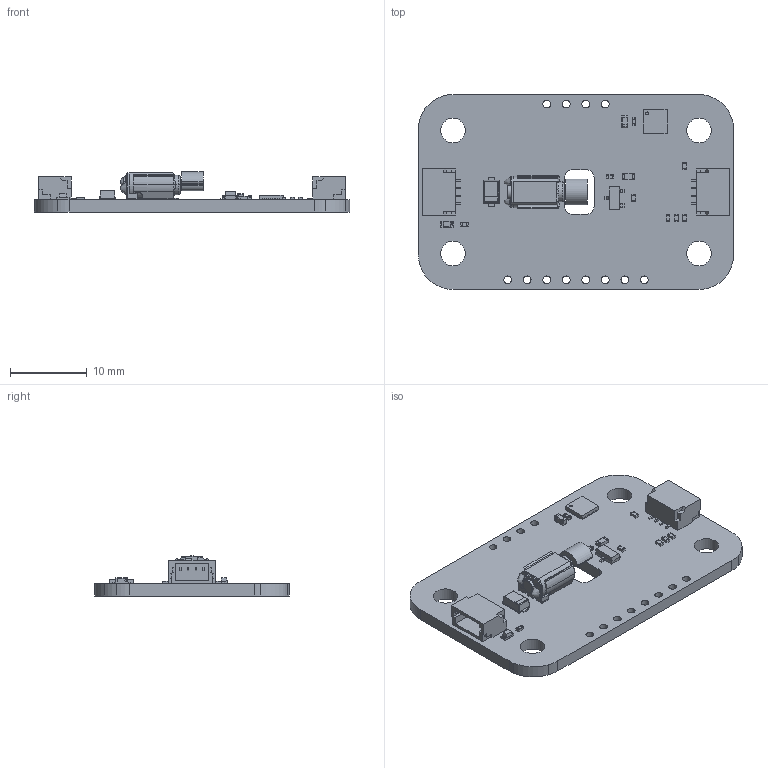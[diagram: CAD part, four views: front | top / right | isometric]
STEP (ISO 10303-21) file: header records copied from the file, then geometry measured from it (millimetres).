
FILE_DESCRIPTION(('Open CASCADE Model'),'2;1');
FILE_NAME('Open CASCADE Shape Model','2025-12-04T17:37:28',('Author'),( 'Open CASCADE'),'Open CASCADE STEP processor 7.5','Open CASCADE 7.5' ,'Unknown');
FILE_SCHEMA(('AUTOMOTIVE_DESIGN { 1 0 10303 214 1 1 1 1 }'));
Length unit declared in the file: millimetre
Products named in the file (86): PCB; Board; Open CASCADE STEP translator 7.5 1.1.1; R5; RES-0603; C1; CAP-0402; R4; RES-0402; Q1; SOT-23; M1; Z30C1T8219732L_RGB8421504; ΢¿Ɵ1; ΢¿Ȗᴐ_1; ×ª×Ó×é¼þVZ43FM1B8230001L; VZ30C1T8219732L×ª×Ó×é¼þ; 4311ͺо_015; 4311ͺо_1; 4311ͺо_002; 4311ͺо_003; 4311ͺо_004; 4311ͺо_005; 4311ͺо_006; 4311ͺо_007; 4311ͺо_008; 4311ͺо_009; 4311ͺо_010; 4311ͺо_011; 4311ͺо_012; 4311ͺо_013; 4311ͺо_014; 4311͗¹۟1; 4311¸ÖÖá9.7_0.7_9.0; 4311ֻ·ؓ_006; 4311ֻ·ؓ_1; 4311ֻ·ؓ_002; 4311ֻ·ؓ_003; 4311ֻ·ؓ_004; 4311ֻ·ؓ_005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
Assembly tree (119 placements, depth 7):
  PCB
    Board
      Open CASCADE STEP translator 7.5 1.1.1
    R5
      RES-0603
    C1
      CAP-0402
    R4
      RES-0402
    Q1
      SOT-23
    M1
      Z30C1T8219732L_RGB8421504
        ΢¿Ɵ1
        ΢¿Ȗᴐ_1
        ×ª×Ó×é¼þVZ43FM1B8230001L
          VZ30C1T8219732L×ª×Ó×é¼þ
            4311ͺо_015
              4311ͺо_1
              4311ͺо_002
              4311ͺо_003
              4311ͺо_004
              4311ͺо_005
              4311ͺо_006
              4311ͺо_007
              4311ͺо_008
              4311ͺо_009
              4311ͺо_010
              4311ͺо_011
              4311ͺо_012
              4311ͺо_013
              4311ͺо_014
            4311͗¹۟1
            4311¸ÖÖá9.7_0.7_9.0
            4311ֻ·ؓ_006
              4311ֻ·ؓ_1
              4311ֻ·ؓ_002
              4311ֻ·ؓ_003
              4311ֻ·ؓ_004
              4311ֻ·ؓ_005
        »ù°å_(3.3)003
          »ù°å_(3.3)
          »ù°å_(3.3)001
          »ù°å_(3.3)002
        º¸Ͻµ❱  x2
        ֧¼۟004
          ֧¼۟2
          ֧¼۟003
        ´ÅÌú  x2
        µ苢_003
          µ苢_
          µ苢_001
          µ苢_002
        µ苢_007
          µ苢_
          µ苢_001
          µ苢_002
        Ïß°ü  x3
        »ù°åÖá³Ð
        ֱ¶¯Ö
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Bounding box: 41 x 25.36 x 5.21 mm (x, y, z)
Volume: 1729.4 mm3; surface area: 3416.1 mm2
Topology: 84 solids, 85 shells, 2637 faces, 6906 edges, 4425 vertices
Faces by surface type: plane 1377, cylinder 1007, bspline 180, sphere 36, cone 29, torus 8
Full cylindrical faces by diameter (mm): 0.07 x1, 0.388 x1, 1 x12, 3.2 x4
Entity records: 70339 total; most frequent: CARTESIAN_POINT 17583, DIRECTION 10648, ORIENTED_EDGE 10473, EDGE_CURVE 5237, AXIS2_PLACEMENT_3D 3902, VERTEX_POINT 3404, LINE 2844, VECTOR 2844
